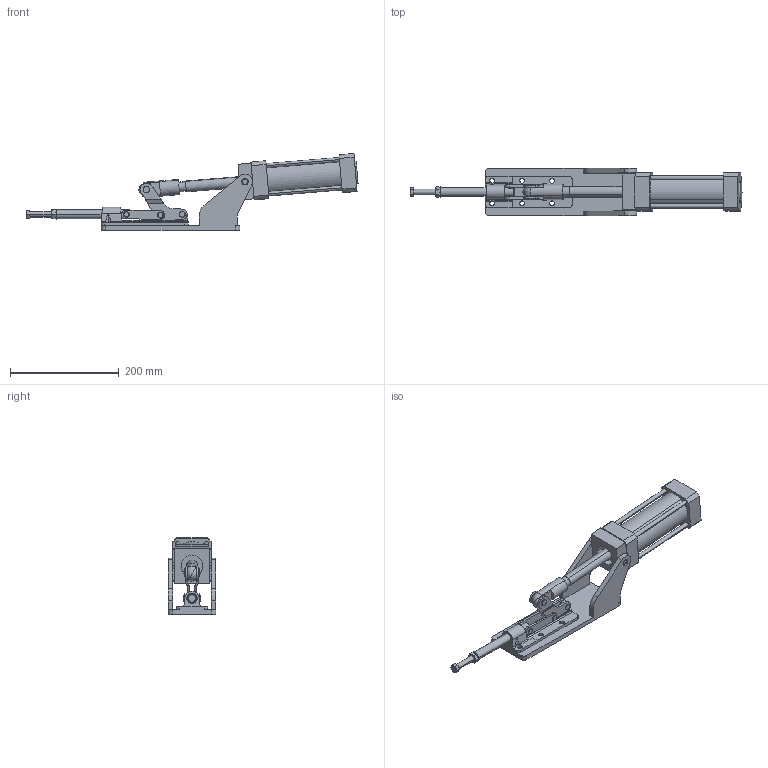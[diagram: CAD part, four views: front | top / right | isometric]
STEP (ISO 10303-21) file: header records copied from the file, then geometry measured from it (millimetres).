
FILE_DESCRIPTION(('CATIA V5 STEP Exchange'),'2;1');
FILE_NAME('E:\model-V5\STP\KJF-AR-35.stp','2005-07-25T06:45:33+00:00',('none'),('none'),'CATIA Version 5 Release 14 (IN-10)','CATIA V5 STEP AP203','none');
FILE_SCHEMA(('CONFIG_CONTROL_DESIGN'));
Length unit declared in the file: millimetre
Products named in the file (1): KJF-AR-35
Bounding box: 610.64 x 88 x 141.4 mm (x, y, z)
Volume: 1283345.1 mm3; surface area: 204535.6 mm2
Topology: 7 solids, 8 shells, 329 faces, 849 edges, 547 vertices
Faces by surface type: plane 145, cylinder 142, cone 38, revolution 2, bspline 2
Entity records: 9565 total; most frequent: CARTESIAN_POINT 2110, ORIENTED_EDGE 1686, DIRECTION 1201, EDGE_CURVE 843, VERTEX_POINT 547, AXIS2_PLACEMENT_3D 518, VECTOR 472, LINE 472
